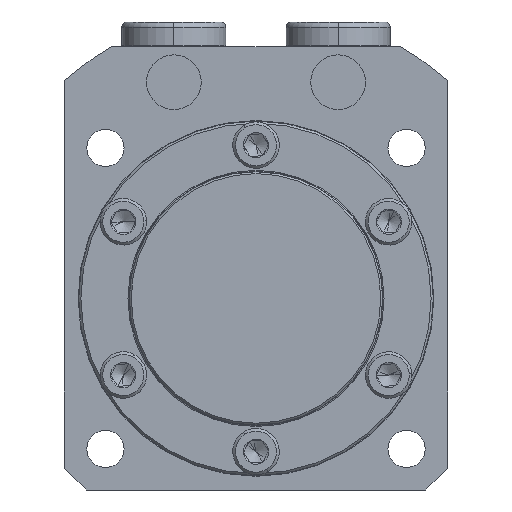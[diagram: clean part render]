
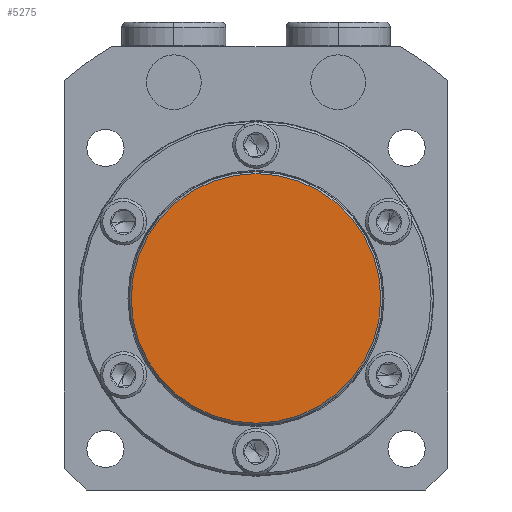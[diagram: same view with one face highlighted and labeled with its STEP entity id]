
A CAD part, front view. The second image highlights one B-rep face of the part: STEP entity #5275.
In plain terms, the highlighted planar face has unit normal (0, -1, 0).
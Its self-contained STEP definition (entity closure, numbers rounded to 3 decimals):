
#889 = CARTESIAN_POINT ( 'NONE',  ( 0., -10.5, -22.8 ) ) ;
#925 = CARTESIAN_POINT ( 'NONE',  ( 0., -10.5, 22.8 ) ) ;
#1803 = VERTEX_POINT ( 'NONE', #889 ) ;
#1840 = VERTEX_POINT ( 'NONE', #925 ) ;
#2048 = CIRCLE ( 'NONE', #2051, 22.8 ) ;
#2051 = AXIS2_PLACEMENT_3D ( 'NONE', #4051, #4052, #4053 ) ;
#3272 = CARTESIAN_POINT ( 'NONE',  ( 0., -10.5, 0. ) ) ;
#3273 = DIRECTION ( 'NONE',  ( 0., -1., 0. ) ) ;
#3274 = DIRECTION ( 'NONE',  ( 0., 0., -1. ) ) ;
#3714 = CARTESIAN_POINT ( 'NONE',  ( 0., -10.5, 0. ) ) ;
#3738 = FACE_OUTER_BOUND ( 'NONE', #5091, .T. ) ;
#3739 = PLANE ( 'NONE',  #4606 ) ;
#3742 = DIRECTION ( 'NONE',  ( 0., -1., 0. ) ) ;
#3743 = DIRECTION ( 'NONE',  ( 0., 0., -1. ) ) ;
#4051 = CARTESIAN_POINT ( 'NONE',  ( 0., -10.5, 0. ) ) ;
#4052 = DIRECTION ( 'NONE',  ( 0., -1., 0. ) ) ;
#4053 = DIRECTION ( 'NONE',  ( 0., 0., -1. ) ) ;
#4460 = CIRCLE ( 'NONE', #4463, 22.8 ) ;
#4463 = AXIS2_PLACEMENT_3D ( 'NONE', #3272, #3273, #3274 ) ;
#4606 = AXIS2_PLACEMENT_3D ( 'NONE', #3714, #3742, #3743 ) ;
#4751 = EDGE_CURVE ( 'NONE', #1803, #1840, #4460, .T. ) ;
#5091 = EDGE_LOOP ( 'NONE', ( #5509, #5510 ) ) ;
#5275 = ADVANCED_FACE ( 'NONE', ( #3738 ), #3739, .T. ) ;
#5509 = ORIENTED_EDGE ( 'NONE', *, *, #5541, .T. ) ;
#5510 = ORIENTED_EDGE ( 'NONE', *, *, #4751, .T. ) ;
#5541 = EDGE_CURVE ( 'NONE', #1840, #1803, #2048, .T. ) ;
